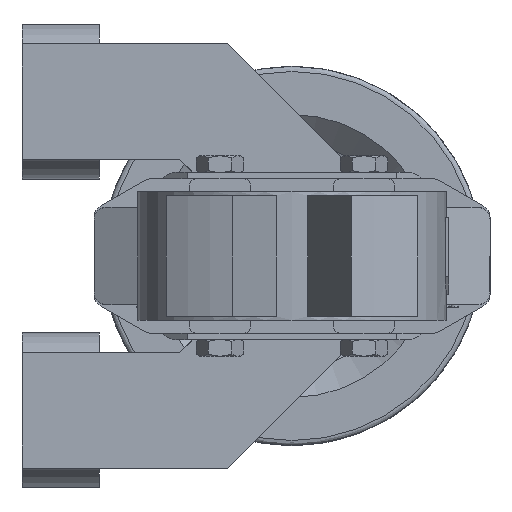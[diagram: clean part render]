
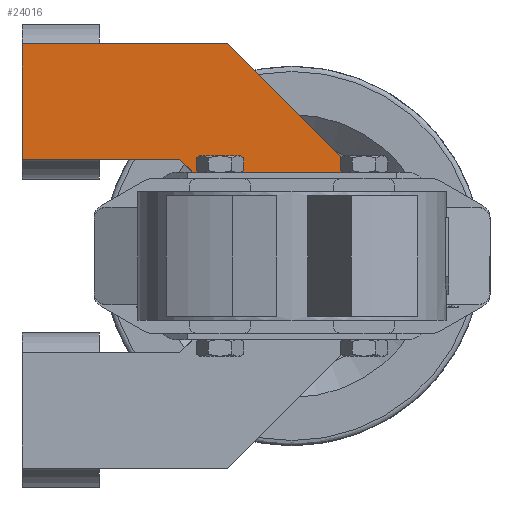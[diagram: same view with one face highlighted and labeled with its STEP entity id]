
A CAD part, front view. The second image highlights one B-rep face of the part: STEP entity #24016.
In plain terms, the highlighted planar face has unit normal (0, -1, 0).
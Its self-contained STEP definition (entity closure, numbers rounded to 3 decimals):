
#11173 = DIRECTION ( 'NONE',  ( 1., 0., 0. ) ) ;
#11174 = VECTOR ( 'NONE', #11173, 1000. ) ;
#11175 = CARTESIAN_POINT ( 'NONE',  ( 35., 291., 30. ) ) ;
#11176 = LINE ( 'NONE', #11175, #11174 ) ;
#14059 = DIRECTION ( 'NONE',  ( 0., 0., -1. ) ) ;
#14060 = DIRECTION ( 'NONE',  ( 0., -1., 0. ) ) ;
#14061 = CARTESIAN_POINT ( 'NONE',  ( 25.675, 291., -31.825 ) ) ;
#14062 = AXIS2_PLACEMENT_3D ( 'NONE', #14061, #14060, #14059 ) ;
#14064 = PLANE ( 'NONE',  #14062 ) ;
#14065 = FACE_OUTER_BOUND ( 'NONE', #24009, .T. ) ;
#14066 = CARTESIAN_POINT ( 'NONE',  ( -43.65, 291., 37.5 ) ) ;
#14067 = DIRECTION ( 'NONE',  ( -0.707, 0., 0.707 ) ) ;
#14068 = VECTOR ( 'NONE', #14067, 1000. ) ;
#14069 = CARTESIAN_POINT ( 'NONE',  ( -22.5, 291., 16.35 ) ) ;
#14070 = LINE ( 'NONE', #14069, #14068 ) ;
#17651 = CARTESIAN_POINT ( 'NONE',  ( -35., 291., 30. ) ) ;
#17702 = DIRECTION ( 'NONE',  ( 0.707, 0., 0.707 ) ) ;
#17703 = VECTOR ( 'NONE', #17702, 1000. ) ;
#17704 = CARTESIAN_POINT ( 'NONE',  ( -35., 291., 30. ) ) ;
#17705 = LINE ( 'NONE', #17704, #17703 ) ;
#18229 = CARTESIAN_POINT ( 'NONE',  ( 22.5, 291., 30. ) ) ;
#19418 = CARTESIAN_POINT ( 'NONE',  ( -35.575, 291., 29.425 ) ) ;
#22672 = EDGE_CURVE ( 'NONE', #29131, #29382, #11176, .T. ) ;
#23251 = VERTEX_POINT ( 'NONE', #30623 ) ;
#23253 = ORIENTED_EDGE ( 'NONE', *, *, #23421, .F. ) ;
#23255 = VERTEX_POINT ( 'NONE', #30616 ) ;
#23342 = ORIENTED_EDGE ( 'NONE', *, *, #22672, .T. ) ;
#23343 = ORIENTED_EDGE ( 'NONE', *, *, #23518, .F. ) ;
#23421 = EDGE_CURVE ( 'NONE', #23255, #23251, #30966, .T. ) ;
#23511 = EDGE_CURVE ( 'NONE', #23251, #23517, #31209, .T. ) ;
#23517 = VERTEX_POINT ( 'NONE', #31190 ) ;
#23518 = EDGE_CURVE ( 'NONE', #23517, #29382, #31189, .T. ) ;
#23521 = ORIENTED_EDGE ( 'NONE', *, *, #23511, .F. ) ;
#23728 = EDGE_CURVE ( 'NONE', #23730, #23255, #31723, .T. ) ;
#23730 = VERTEX_POINT ( 'NONE', #31716 ) ;
#23743 = ORIENTED_EDGE ( 'NONE', *, *, #23728, .F. ) ;
#23747 = EDGE_CURVE ( 'NONE', #24014, #23730, #31753, .T. ) ;
#23752 = ORIENTED_EDGE ( 'NONE', *, *, #23747, .F. ) ;
#24008 = ORIENTED_EDGE ( 'NONE', *, *, #29136, .T. ) ;
#24009 = EDGE_LOOP ( 'NONE', ( #24011, #24008, #23342, #23343, #23521, #23253, #23743, #23752 ) ) ;
#24011 = ORIENTED_EDGE ( 'NONE', *, *, #24013, .F. ) ;
#24013 = EDGE_CURVE ( 'NONE', #31952, #24014, #14070, .T. ) ;
#24014 = VERTEX_POINT ( 'NONE', #14066 ) ;
#24016 = ADVANCED_FACE ( 'NONE', ( #14065 ), #14064, .T. ) ;
#29131 = VERTEX_POINT ( 'NONE', #17651 ) ;
#29136 = EDGE_CURVE ( 'NONE', #31952, #29131, #17705, .T. ) ;
#29382 = VERTEX_POINT ( 'NONE', #18229 ) ;
#30616 = CARTESIAN_POINT ( 'NONE',  ( -105., 291., 82.5 ) ) ;
#30623 = CARTESIAN_POINT ( 'NONE',  ( -25., 291., 82.5 ) ) ;
#30963 = DIRECTION ( 'NONE',  ( 1., 0., 0. ) ) ;
#30964 = VECTOR ( 'NONE', #30963, 1000. ) ;
#30965 = CARTESIAN_POINT ( 'NONE',  ( -25., 291., 82.5 ) ) ;
#30966 = LINE ( 'NONE', #30965, #30964 ) ;
#31186 = DIRECTION ( 'NONE',  ( 0., 0., -1. ) ) ;
#31187 = VECTOR ( 'NONE', #31186, 1000. ) ;
#31188 = CARTESIAN_POINT ( 'NONE',  ( 22.5, 291., -35. ) ) ;
#31189 = LINE ( 'NONE', #31188, #31187 ) ;
#31190 = CARTESIAN_POINT ( 'NONE',  ( 22.5, 291., 35. ) ) ;
#31206 = DIRECTION ( 'NONE',  ( 0.707, 0., -0.707 ) ) ;
#31207 = VECTOR ( 'NONE', #31206, 1000. ) ;
#31208 = CARTESIAN_POINT ( 'NONE',  ( 22.5, 291., 35. ) ) ;
#31209 = LINE ( 'NONE', #31208, #31207 ) ;
#31716 = CARTESIAN_POINT ( 'NONE',  ( -105., 291., 37.5 ) ) ;
#31717 = DIRECTION ( 'NONE',  ( 0., 0., 1. ) ) ;
#31718 = VECTOR ( 'NONE', #31717, 1000. ) ;
#31719 = CARTESIAN_POINT ( 'NONE',  ( -105., 291., 37.5 ) ) ;
#31723 = LINE ( 'NONE', #31719, #31718 ) ;
#31750 = DIRECTION ( 'NONE',  ( -1., 0., 0. ) ) ;
#31751 = VECTOR ( 'NONE', #31750, 1000. ) ;
#31752 = CARTESIAN_POINT ( 'NONE',  ( -105., 291., 37.5 ) ) ;
#31753 = LINE ( 'NONE', #31752, #31751 ) ;
#31952 = VERTEX_POINT ( 'NONE', #19418 ) ;
